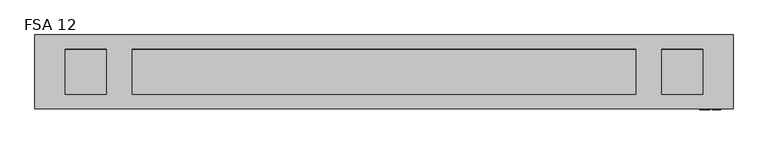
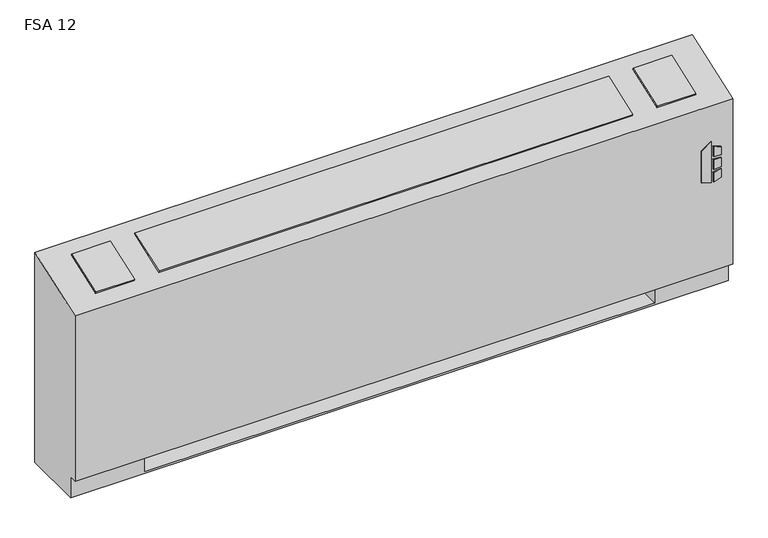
"""IFC4 building model written with IfcOpenShell, lengths in millimetres: proxy geometry, Vertical_Fan_Coil_Unit_-_FSA_-_IEC_-_4-Pipe_TS-FR_LH_2022 : FSA 12."""

from ifc_helpers import new_model, si_unit, point, frame, frame_2d, origin, place, context, project, spatial, polyline, circle_curve, trimmed, segment, composite_curve, outline, extrude, source, transform, mapped, element, save
from ifc_brep_helpers import plane_surface, revolved_surface, advanced_brep


def fsa_12_fc2f0c06(model_context):
    return source(origin(), model_context, "Body", "SolidModel", [
        extrude(outline(polyline([(391.6086829, 1128.7868862), (381.6606126, 1160.9602728), (523.831537, 1160.9602728), (500.8095309, 1128.7868862), (391.6086829, 1128.7868862)])), frame((0.0, 12.7, 0.0), z_axis=(0.0, 1.0, 0.0), x_axis=(0.0, 0.0, 1.0)), (0.0, 0.0, 1.0), 3.175),
        extrude(outline(polyline([(470.6079683, 1167.7186058), (467.4055757, 1193.8), (496.6344168, 1193.8), (504.6988318, 1167.7186058), (470.6079683, 1167.7186058)])), frame((0.0, 12.7, 0.0), z_axis=(0.0, 1.0, 0.0), x_axis=(0.0, 0.0, 1.0)), (0.0, 0.0, 1.0), 3.175),
        extrude(outline(polyline([(418.7444414, 1193.8), (415.0789404, 1167.7186058), (381.6606126, 1167.7186058), (390.2948498, 1193.8), (418.7444414, 1193.8)])), frame((0.0, 12.7, 0.0), z_axis=(0.0, 1.0, 0.0), x_axis=(0.0, 0.0, 1.0)), (0.0, 0.0, 1.0), 3.175),
        extrude(outline(polyline([(458.0596028, 1193.8), (460.3414292, 1167.7186058), (424.4038806, 1167.7186058), (427.1451456, 1193.8), (458.0596028, 1193.8)])), frame((0.0, 12.7, 0.0), z_axis=(0.0, 1.0, 0.0), x_axis=(0.0, 0.0, 1.0)), (0.0, 0.0, 1.0), 3.175),
        extrude(outline(polyline([(1111.25, 223.266), (1111.25, 81.534), (990.6, 81.534), (990.6, 223.266), (1111.25, 223.266)])), frame((0.0, 0.0, 327.025), z_axis=(0.0, 0.0, 1.0), x_axis=(1.0, 0.0, 0.0)), (0.0, 0.0, 1.0), 260.35),
        extrude(outline(composite_curve([segment(trimmed(circle_curve(frame_2d((-749.3, 130.175)), 9.525), [point((-758.825, 130.175))], [point((-739.775, 130.175))], False, "CARTESIAN"), True, "CONTINUOUS"), segment(trimmed(circle_curve(frame_2d((-749.3, 130.175)), 9.525), [point((-739.775, 130.175))], [point((-758.825, 130.175))], False, "CARTESIAN"), True, "CONTINUOUS")], self_intersect=False)), frame((0.0, 0.0, 101.6), z_axis=(0.0, 0.0, 1.0), x_axis=(1.0, 0.0, 0.0)), (0.0, 0.0, 1.0), 25.4),
        extrude(outline(polyline([(-850.9, 63.5), (-850.9, 196.85), (-685.8, 196.85), (-685.8, 63.5), (-850.9, 63.5)])), frame((0.0, 0.0, 127.0), z_axis=(0.0, 0.0, 1.0), x_axis=(1.0, 0.0, 0.0)), (0.0, 0.0, 1.0), 50.8),
        extrude(outline(polyline([(0.0, -146.0500001), (0.0, 0.0), (127.0, 0.0), (127.0, -146.0500001), (0.0, -146.0500001)])), frame((-832.993, 200.4217127, 714.3418685), z_axis=(0.0, -0.3396444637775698, 0.9405538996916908), x_axis=(1.0, 0.0, 0.0)), (0.0, 0.0, 1.0), 6.35),
        extrude(outline(polyline([(0.0, -146.0500001), (0.0, 0.0), (1555.75, 0.0), (1555.75, -146.0500001), (0.0, -146.0500001)])), frame((930.275, 63.0538156, 664.7367945), z_axis=(0.0, -0.33964446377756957, 0.9405538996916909), x_axis=(-1.0, 0.0, 0.0)), (0.0, 0.0, 1.0), 6.35),
        extrude(outline(polyline([(0.0, -146.0500001), (0.0, 0.0), (127.0, 0.0), (127.0, -146.0500001), (0.0, -146.0500001)])), frame((1137.793, 63.0538156, 664.7367945), z_axis=(0.0, -0.3396444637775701, 0.9405538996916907), x_axis=(-1.0, 0.0, 0.0)), (0.0, 0.0, 1.0), 6.35),
        extrude(outline(composite_curve([segment(trimmed(circle_curve(frame_2d((109.0168, 457.2)), 7.9375), [point((109.0168, 465.1375))], [point((109.0168, 449.2625))], False, "CARTESIAN"), True, "CONTINUOUS"), segment(trimmed(circle_curve(frame_2d((109.0168, 457.2)), 7.9375), [point((109.0168, 449.2625))], [point((109.0168, 465.1375))], False, "CARTESIAN"), True, "CONTINUOUS")], self_intersect=False)), frame((-736.6, 0.0, 0.0), z_axis=(1.0, 0.0, 0.0), x_axis=(0.0, 1.0, 0.0)), (0.0, 0.0, 1.0), 50.8),
        extrude(outline(composite_curve([segment(trimmed(circle_curve(frame_2d((172.085, 460.0194)), 7.9375), [point((172.085, 467.9569))], [point((172.085, 452.0819))], False, "CARTESIAN"), True, "CONTINUOUS"), segment(trimmed(circle_curve(frame_2d((172.085, 460.0194)), 7.9375), [point((172.085, 452.0819))], [point((172.085, 467.9569))], False, "CARTESIAN"), True, "CONTINUOUS")], self_intersect=False)), frame((-736.6, 0.0, 0.0), z_axis=(1.0, 0.0, 0.0), x_axis=(0.0, 1.0, 0.0)), (0.0, 0.0, 1.0), 50.8),
        extrude(outline(composite_curve([segment(trimmed(circle_curve(frame_2d((130.175, 554.99)), 7.9502), [point((130.175, 562.9402))], [point((130.175, 547.0398))], False, "CARTESIAN"), True, "CONTINUOUS"), segment(trimmed(circle_curve(frame_2d((130.175, 554.99)), 7.9502), [point((130.175, 547.0398))], [point((130.175, 562.9402))], False, "CARTESIAN"), True, "CONTINUOUS")], self_intersect=False)), frame((-736.6, 0.0, 0.0), z_axis=(1.0, 0.0, 0.0), x_axis=(0.0, 1.0, 0.0)), (0.0, 0.0, 1.0), 50.8),
        extrude(outline(composite_curve([segment(trimmed(circle_curve(frame_2d((53.975, 416.56)), 7.9502), [point((53.975, 424.5102))], [point((53.975, 408.6098))], False, "CARTESIAN"), True, "CONTINUOUS"), segment(trimmed(circle_curve(frame_2d((53.975, 416.56)), 7.9502), [point((53.975, 408.6098))], [point((53.975, 424.5102))], False, "CARTESIAN"), True, "CONTINUOUS")], self_intersect=False)), frame((-736.6, 0.0, 0.0), z_axis=(1.0, 0.0, 0.0), x_axis=(0.0, 1.0, 0.0)), (0.0, 0.0, 1.0), 50.8),
        advanced_brep(
        [(-927.1, 244.475, 0.0), (1231.9, 244.475, 0.0), (1231.9, 41.275, 0.0), (-927.1, 41.275, 0.0), (-927.1, 244.475, 730.25), (1231.9, 244.475, 730.25), (990.6, 244.475, 73.025), (1219.2, 244.475, 73.025), (1219.2, 244.475, 654.05), (990.6, 244.475, 654.05), (990.6, 244.475, 414.8650565), (1019.175, 244.475, 414.8650565), (1019.175, 244.475, 385.2349435), (990.6, 244.475, 385.2349435), (990.6, 244.475, 287.3375), (1019.175, 244.475, 287.3375), (1019.175, 244.475, 258.7625), (990.6, 244.475, 258.7625), (990.6, 244.475, 141.2875), (1019.175, 244.475, 141.2875), (1019.175, 244.475, 112.7125), (990.6, 244.475, 112.7125), (-685.8, 244.475, 654.05), (-914.4, 244.475, 654.05), (-914.4, 244.475, 73.025), (-685.8, 244.475, 73.025), (-685.8, 244.475, 112.7125), (-714.375, 244.475, 112.7125), (-714.375, 244.475, 141.2875), (-685.8, 244.475, 141.2875), (-685.8, 244.475, 258.7625), (-714.375, 244.475, 258.7625), (-714.375, 244.475, 287.3375), (-685.8, 244.475, 287.3375), (-685.8, 244.475, 385.2349435), (-714.375, 244.475, 385.2349435), (-714.375, 244.475, 414.8650565), (-685.8, 244.475, 414.8650565), (1008.8626, 244.475, 127.0), (997.7374, 244.475, 127.0), (1008.8626, 244.475, 400.05), (997.7374, 244.475, 400.05), (1008.8626, 244.475, 273.05), (997.7374, 244.475, 273.05), (-692.9374, 244.475, 127.0), (-704.0626, 244.475, 127.0), (-692.9374, 244.475, 273.05), (-704.0626, 244.475, 273.05), (-692.9374, 244.475, 400.05), (-704.0626, 244.475, 400.05), (-927.1, 41.275, 73.025), (-927.1, 15.875, 73.025), (-927.1, 15.875, 647.7), (1231.9, 15.875, 73.025), (1231.9, 15.875, 647.7), (1231.9, 41.275, 73.025), (-685.8, 41.275, 73.025), (-685.8, 225.425, 73.025), (990.6, 225.425, 73.025), (990.6, 41.275, 73.025), (990.6, 41.275, 6.35), (-685.8, 41.275, 6.35), (990.6, 41.275, 654.05), (1219.2, 41.275, 654.05), (1219.2, 41.275, 73.025), (990.6, 41.275, 73.025), (-685.8, 41.275, 654.05), (-685.8, 41.275, 73.025), (-914.4, 41.275, 73.025), (-914.4, 41.275, 654.05), (990.6, 225.425, 73.025), (990.6, 238.125, 112.7125), (990.6, 238.125, 141.2875), (990.6, 238.125, 258.7625), (990.6, 238.125, 287.3375), (990.6, 238.125, 385.2349435), (990.6, 238.125, 414.8650565), (-685.8, 225.425, 73.025), (-685.8, 238.125, 414.8650565), (-685.8, 238.125, 385.2349435), (-685.8, 238.125, 287.3375), (-685.8, 238.125, 258.7625), (-685.8, 238.125, 141.2875), (-685.8, 238.125, 112.7125), (-685.8, 225.425, 6.35), (990.6, 225.425, 6.35), (1019.175, 238.125, 112.7125), (1019.175, 238.125, 141.2875), (997.7374, 238.125, 127.0), (1008.8626, 238.125, 127.0), (1019.175, 238.125, 258.7625), (1019.175, 238.125, 287.3375), (997.7374, 238.125, 273.05), (1008.8626, 238.125, 273.05), (1019.175, 238.125, 385.2349435), (1019.175, 238.125, 414.8650565), (997.7374, 238.125, 400.05), (1008.8626, 238.125, 400.05), (-714.375, 238.125, 141.2875), (-714.375, 238.125, 112.7125), (-704.0626, 238.125, 127.0), (-692.9374, 238.125, 127.0), (-714.375, 238.125, 287.3375), (-714.375, 238.125, 258.7625), (-704.0626, 238.125, 273.05), (-692.9374, 238.125, 273.05), (-714.375, 238.125, 414.8650565), (-714.375, 238.125, 385.2349435), (-704.0626, 238.125, 400.05), (-692.9374, 238.125, 400.05)],
        [
            (0, 1),
            (1, 2),
            (2, 3),
            (3, 0),
            (0, 4),
            (4, 5),
            (5, 1),
            (6, 7),
            (7, 8),
            (8, 9),
            (9, 10),
            (10, 11),
            (11, 12),
            (12, 13),
            (13, 14),
            (14, 15),
            (15, 16),
            (16, 17),
            (17, 18),
            (18, 19),
            (19, 20),
            (20, 21),
            (21, 6),
            (22, 23),
            (23, 24),
            (24, 25),
            (25, 26),
            (26, 27),
            (27, 28),
            (28, 29),
            (29, 30),
            (30, 31),
            (31, 32),
            (32, 33),
            (33, 34),
            (34, 35),
            (35, 36),
            (36, 37),
            (37, 22),
            (38, 39, circle_curve(frame((1003.3, 244.475, 127.0), z_axis=(0.0, -1.0, 0.0), x_axis=(-1.0, 0.0, 0.0)), 5.5626)),
            (39, 38, circle_curve(frame((1003.3, 244.475, 127.0), z_axis=(0.0, -1.0, 0.0), x_axis=(-1.0, 0.0, 0.0)), 5.5626)),
            (40, 41, circle_curve(frame((1003.3, 244.475, 400.05), z_axis=(0.0, -1.0, 0.0), x_axis=(-1.0, 0.0, 0.0)), 5.5626)),
            (41, 40, circle_curve(frame((1003.3, 244.475, 400.05), z_axis=(0.0, -1.0, 0.0), x_axis=(-1.0, 0.0, 0.0)), 5.5626)),
            (42, 43, circle_curve(frame((1003.3, 244.475, 273.05), z_axis=(0.0, -1.0, 0.0), x_axis=(-1.0, 0.0, 0.0)), 5.5626)),
            (43, 42, circle_curve(frame((1003.3, 244.475, 273.05), z_axis=(0.0, -1.0, 0.0), x_axis=(-1.0, 0.0, 0.0)), 5.5626)),
            (44, 45, circle_curve(frame((-698.5, 244.475, 127.0), z_axis=(0.0, -1.0, 0.0), x_axis=(-1.0, 0.0, 0.0)), 5.5626)),
            (45, 44, circle_curve(frame((-698.5, 244.475, 127.0), z_axis=(0.0, -1.0, 0.0), x_axis=(-1.0, 0.0, 0.0)), 5.5626)),
            (46, 47, circle_curve(frame((-698.5, 244.475, 273.05), z_axis=(0.0, -1.0, 0.0), x_axis=(-1.0, 0.0, 0.0)), 5.5626)),
            (47, 46, circle_curve(frame((-698.5, 244.475, 273.05), z_axis=(0.0, -1.0, 0.0), x_axis=(-1.0, 0.0, 0.0)), 5.5626)),
            (48, 49, circle_curve(frame((-698.5, 244.475, 400.05), z_axis=(0.0, -1.0, 0.0), x_axis=(-1.0, 0.0, 0.0)), 5.5626)),
            (49, 48, circle_curve(frame((-698.5, 244.475, 400.05), z_axis=(0.0, -1.0, 0.0), x_axis=(-1.0, 0.0, 0.0)), 5.5626)),
            (3, 50),
            (50, 51),
            (51, 52),
            (52, 4),
            (51, 53),
            (53, 54),
            (54, 52),
            (5, 54),
            (53, 55),
            (55, 2),
            (50, 56),
            (56, 57),
            (57, 58),
            (58, 59),
            (59, 55),
            (59, 60),
            (60, 61),
            (61, 56),
            (62, 63),
            (63, 64),
            (64, 65),
            (65, 62),
            (66, 67),
            (67, 68),
            (68, 69),
            (69, 66),
            (65, 70),
            (70, 6),
            (21, 71),
            (71, 72),
            (72, 18),
            (17, 73),
            (73, 74),
            (74, 14),
            (13, 75),
            (75, 76),
            (76, 10),
            (9, 62),
            (64, 7),
            (63, 8),
            (69, 23),
            (22, 66),
            (68, 24),
            (67, 77),
            (77, 25),
            (37, 78),
            (78, 79),
            (79, 34),
            (33, 80),
            (80, 81),
            (81, 30),
            (29, 82),
            (82, 83),
            (83, 26),
            (57, 84),
            (84, 85),
            (85, 58),
            (85, 60),
            (84, 61),
            (71, 86),
            (86, 87),
            (87, 72),
            (88, 89, circle_curve(frame((1003.3, 238.125, 127.0), z_axis=(0.0, 1.0, 0.0), x_axis=(-1.0, 0.0, 0.0)), 5.5626)),
            (89, 88, circle_curve(frame((1003.3, 238.125, 127.0), z_axis=(0.0, 1.0, 0.0), x_axis=(-1.0, 0.0, 0.0)), 5.5626)),
            (73, 90),
            (90, 91),
            (91, 74),
            (92, 93, circle_curve(frame((1003.3, 238.125, 273.05), z_axis=(0.0, 1.0, 0.0), x_axis=(-1.0, 0.0, 0.0)), 5.5626)),
            (93, 92, circle_curve(frame((1003.3, 238.125, 273.05), z_axis=(0.0, 1.0, 0.0), x_axis=(-1.0, 0.0, 0.0)), 5.5626)),
            (75, 94),
            (94, 95),
            (95, 76),
            (96, 97, circle_curve(frame((1003.3, 238.125, 400.05), z_axis=(0.0, 1.0, 0.0), x_axis=(-1.0, 0.0, 0.0)), 5.5626)),
            (97, 96, circle_curve(frame((1003.3, 238.125, 400.05), z_axis=(0.0, 1.0, 0.0), x_axis=(-1.0, 0.0, 0.0)), 5.5626)),
            (98, 99),
            (99, 83),
            (82, 98),
            (100, 101, circle_curve(frame((-698.5, 238.125, 127.0), z_axis=(0.0, 1.0, 0.0), x_axis=(-1.0, 0.0, 0.0)), 5.5626)),
            (101, 100, circle_curve(frame((-698.5, 238.125, 127.0), z_axis=(0.0, 1.0, 0.0), x_axis=(-1.0, 0.0, 0.0)), 5.5626)),
            (102, 103),
            (103, 81),
            (80, 102),
            (104, 105, circle_curve(frame((-698.5, 238.125, 273.05), z_axis=(0.0, 1.0, 0.0), x_axis=(-1.0, 0.0, 0.0)), 5.5626)),
            (105, 104, circle_curve(frame((-698.5, 238.125, 273.05), z_axis=(0.0, 1.0, 0.0), x_axis=(-1.0, 0.0, 0.0)), 5.5626)),
            (106, 107),
            (107, 79),
            (78, 106),
            (108, 109, circle_curve(frame((-698.5, 238.125, 400.05), z_axis=(0.0, 1.0, 0.0), x_axis=(-1.0, 0.0, 0.0)), 5.5626)),
            (109, 108, circle_curve(frame((-698.5, 238.125, 400.05), z_axis=(0.0, 1.0, 0.0), x_axis=(-1.0, 0.0, 0.0)), 5.5626)),
            (87, 19),
            (86, 20),
            (91, 15),
            (90, 16),
            (95, 11),
            (94, 12),
            (28, 98),
            (99, 27),
            (32, 102),
            (103, 31),
            (36, 106),
            (107, 35),
            (88, 39),
            (38, 89),
            (96, 41),
            (40, 97),
            (92, 43),
            (42, 93),
            (100, 45),
            (44, 101),
            (104, 47),
            (46, 105),
            (108, 49),
            (48, 109),
        ],
        [
            plane_surface(frame((-927.1, 244.475, 0.0), z_axis=(0.0, 0.0, -1.0), x_axis=(1.0, 0.0, 0.0))),
            plane_surface(frame((1231.9, 244.475, 730.25), z_axis=(0.0, 1.0, 0.0), x_axis=(0.0, 0.0, -1.0))),
            plane_surface(frame((-927.1, 244.475, 730.25), z_axis=(-1.0, 0.0, 0.0), x_axis=(0.0, 0.0, -1.0))),
            plane_surface(frame((-927.1, 15.875, 730.25), z_axis=(0.0, -1.0, 0.0), x_axis=(0.0, 0.0, -1.0))),
            plane_surface(frame((1231.9, 15.875, 730.25), z_axis=(1.0, 0.0, 0.0), x_axis=(0.0, 0.0, -1.0))),
            plane_surface(frame((-927.1, 15.875, 73.025), z_axis=(0.0, 0.0, -1.0), x_axis=(1.0, 0.0, 0.0))),
            plane_surface(frame((-927.1, 41.275, 73.025), z_axis=(0.0, -1.0, 0.0), x_axis=(1.0, 0.0, 0.0))),
            plane_surface(frame((990.6, 41.275, 654.05), z_axis=(0.0, 1.0, 0.0), x_axis=(0.0, 0.0, -1.0))),
            plane_surface(frame((990.6, 41.275, 654.05), z_axis=(1.0, 0.0, 0.0), x_axis=(0.0, 1.0, 0.0))),
            plane_surface(frame((990.6, 41.275, 73.025), z_axis=(0.0, 0.0, 1.0), x_axis=(0.0, 1.0, 0.0))),
            plane_surface(frame((1219.2, 41.275, 73.025), z_axis=(-1.0, 0.0, 0.0), x_axis=(0.0, 1.0, 0.0))),
            plane_surface(frame((1219.2, 41.275, 654.05), z_axis=(0.0, 0.0, -1.0), x_axis=(0.0, 1.0, 0.0))),
            plane_surface(frame((-685.8, 41.275, 654.05), z_axis=(0.0, 0.0, -1.0), x_axis=(0.0, 1.0, 0.0))),
            plane_surface(frame((-914.4, 41.275, 654.05), z_axis=(1.0, 0.0, 0.0), x_axis=(0.0, 1.0, 0.0))),
            plane_surface(frame((-914.4, 41.275, 73.025), z_axis=(0.0, 0.0, 1.0), x_axis=(0.0, 1.0, 0.0))),
            plane_surface(frame((-685.8, 41.275, 73.025), z_axis=(-1.0, 0.0, 0.0), x_axis=(0.0, 1.0, 0.0))),
            plane_surface(frame((990.6, 225.425, 73.025), z_axis=(0.0, -1.0, 0.0), x_axis=(0.0, 0.0, -1.0))),
            plane_surface(frame((990.6, 225.425, 73.025), z_axis=(-1.0, 0.0, 0.0), x_axis=(0.0, -1.0, 0.0))),
            plane_surface(frame((990.6, 225.425, 6.35), z_axis=(0.0, 0.0, 1.0), x_axis=(0.0, -1.0, 0.0))),
            plane_surface(frame((-685.8, 225.425, 6.35), z_axis=(1.0, 0.0, 0.0), x_axis=(0.0, -1.0, 0.0))),
            plane_surface(frame((1019.175, 238.125, 141.2875), z_axis=(0.0, -1.0, 0.0), x_axis=(-1.0, 0.0, 0.0))),
            plane_surface(frame((990.6, 244.475, 141.2875), z_axis=(0.0, 0.0, 1.0), x_axis=(0.0, -1.0, 0.0))),
            plane_surface(frame((1019.175, 244.475, 141.2875), z_axis=(1.0, 0.0, 0.0), x_axis=(0.0, -1.0, 0.0))),
            plane_surface(frame((1019.175, 244.475, 112.7125), z_axis=(0.0, 0.0, -1.0), x_axis=(0.0, -1.0, 0.0))),
            plane_surface(frame((990.6, 244.475, 287.3375), z_axis=(0.0, 0.0, 1.0), x_axis=(0.0, -1.0, 0.0))),
            plane_surface(frame((1019.175, 244.475, 287.3375), z_axis=(1.0, 0.0, 0.0), x_axis=(0.0, -1.0, 0.0))),
            plane_surface(frame((1019.175, 244.475, 258.7625), z_axis=(0.0, 0.0, -1.0), x_axis=(0.0, -1.0, 0.0))),
            plane_surface(frame((990.6, 244.475, 414.8650565), z_axis=(0.0, 0.0, 1.0), x_axis=(0.0, -1.0, 0.0))),
            plane_surface(frame((1019.175, 244.475, 414.8650565), z_axis=(1.0, 0.0, 0.0), x_axis=(0.0, -1.0, 0.0))),
            plane_surface(frame((1019.175, 244.475, 385.2349435), z_axis=(0.0, 0.0, -1.0), x_axis=(0.0, -1.0, 0.0))),
            plane_surface(frame((-714.375, 244.475, 141.2875), z_axis=(0.0, 0.0, 1.0), x_axis=(0.0, -1.0, 0.0))),
            plane_surface(frame((-685.8, 244.475, 112.7125), z_axis=(0.0, 0.0, -1.0), x_axis=(0.0, -1.0, 0.0))),
            plane_surface(frame((-714.375, 244.475, 112.7125), z_axis=(-1.0, 0.0, 0.0), x_axis=(0.0, -1.0, 0.0))),
            plane_surface(frame((-714.375, 244.475, 287.3375), z_axis=(0.0, 0.0, 1.0), x_axis=(0.0, -1.0, 0.0))),
            plane_surface(frame((-685.8, 244.475, 258.7625), z_axis=(0.0, 0.0, -1.0), x_axis=(0.0, -1.0, 0.0))),
            plane_surface(frame((-714.375, 244.475, 258.7625), z_axis=(-1.0, 0.0, 0.0), x_axis=(0.0, -1.0, 0.0))),
            plane_surface(frame((-714.375, 244.475, 414.8650565), z_axis=(0.0, 0.0, 1.0), x_axis=(0.0, -1.0, 0.0))),
            plane_surface(frame((-685.8, 244.475, 385.2349435), z_axis=(0.0, 0.0, -1.0), x_axis=(0.0, -1.0, 0.0))),
            plane_surface(frame((-714.375, 244.475, 385.2349435), z_axis=(-1.0, 0.0, 0.0), x_axis=(0.0, -1.0, 0.0))),
            revolved_surface(polyline([(997.7374, 238.125, 127.0), (997.7374, 244.475, 127.0)]), (1003.3, 244.475, 127.0), (0.0, -1.0, 0.0)),
            revolved_surface(polyline([(997.7374, 238.125, 400.05), (997.7374, 244.475, 400.05)]), (1003.3, 244.475, 400.05), (0.0, -1.0, 0.0)),
            revolved_surface(polyline([(997.7374, 238.125, 273.05), (997.7374, 244.475, 273.05)]), (1003.3, 244.475, 273.05), (0.0, -1.0, 0.0)),
            revolved_surface(polyline([(-704.0626, 238.125, 127.0), (-704.0626, 244.475, 127.0)]), (-698.5, 244.475, 127.0), (0.0, -1.0, 0.0)),
            revolved_surface(polyline([(-704.0626, 238.125, 273.05), (-704.0626, 244.475, 273.05)]), (-698.5, 244.475, 273.05), (0.0, -1.0, 0.0)),
            revolved_surface(polyline([(-704.0626, 238.125, 400.05), (-704.0626, 244.475, 400.05)]), (-698.5, 244.475, 400.05), (0.0, -1.0, 0.0)),
            plane_surface(frame((-927.1, 244.475, 730.25), z_axis=(0.0, -0.33964446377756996, 0.9405538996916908), x_axis=(1.0, 0.0, 0.0))),
        ],
        [
            (0, [[1, 2, 3, 4]]),
            (1, [[-1, 5, 6, 7], [8, 9, 10, 11, 12, 13, 14, 15, 16, 17, 18, 19, 20, 21, 22, 23], [24, 25, 26, 27, 28, 29, 30, 31, 32, 33, 34, 35, 36, 37, 38, 39], [40, 41], [42, 43], [44, 45], [46, 47], [48, 49], [50, 51]]),
            (2, [[-5, -4, 52, 53, 54, 55]]),
            (3, [[56, 57, 58, -54]]),
            (4, [[-7, 59, -57, 60, 61, -2]]),
            (5, [[-53, 62, 63, 64, 65, 66, -60, -56]]),
            (6, [[-3, -61, -66, 67, 68, 69, -62, -52]]),
            (7, [[70, 71, 72, 73]]),
            (7, [[74, 75, 76, 77]]),
            (8, [[-73, 78, 79, -23, 80, 81, 82, -19, 83, 84, 85, -15, 86, 87, 88, -11, 89]]),
            (9, [[-72, 90, -8, -79, -78]]),
            (10, [[-71, 91, -9, -90]]),
            (11, [[-70, -89, -10, -91]]),
            (12, [[-77, 92, -24, 93]]),
            (13, [[-76, 94, -25, -92]]),
            (14, [[-75, 95, 96, -26, -94]]),
            (15, [[-74, -93, -39, 97, 98, 99, -35, 100, 101, 102, -31, 103, 104, 105, -27, -96, -95]]),
            (16, [[-64, 106, 107, 108]]),
            (17, [[-108, 109, -67, -65]]),
            (18, [[-107, 110, -68, -109]]),
            (19, [[-106, -63, -69, -110]]),
            (20, [[111, 112, 113, -81], [114, 115]]),
            (20, [[116, 117, 118, -84], [119, 120]]),
            (20, [[121, 122, 123, -87], [124, 125]]),
            (20, [[126, 127, -104, 128], [129, 130]]),
            (20, [[131, 132, -101, 133], [134, 135]]),
            (20, [[136, 137, -98, 138], [139, 140]]),
            (21, [[-113, 141, -20, -82]]),
            (22, [[-112, 142, -21, -141]]),
            (23, [[-111, -80, -22, -142]]),
            (24, [[-118, 143, -16, -85]]),
            (25, [[-117, 144, -17, -143]]),
            (26, [[-116, -83, -18, -144]]),
            (27, [[-123, 145, -12, -88]]),
            (28, [[-122, 146, -13, -145]]),
            (29, [[-121, -86, -14, -146]]),
            (30, [[-128, -103, -30, 147]]),
            (31, [[-127, 148, -28, -105]]),
            (32, [[-126, -147, -29, -148]]),
            (33, [[-133, -100, -34, 149]]),
            (34, [[-132, 150, -32, -102]]),
            (35, [[-131, -149, -33, -150]]),
            (36, [[-138, -97, -38, 151]]),
            (37, [[-137, 152, -36, -99]]),
            (38, [[-136, -151, -37, -152]]),
            (39, [[153, -40, 154, -114]]),
            (39, [[-153, -115, -154, -41]]),
            (40, [[155, -42, 156, -124]]),
            (40, [[-155, -125, -156, -43]]),
            (41, [[157, -44, 158, -119]]),
            (41, [[-157, -120, -158, -45]]),
            (42, [[159, -46, 160, -129]]),
            (42, [[-159, -130, -160, -47]]),
            (43, [[161, -48, 162, -134]]),
            (43, [[-161, -135, -162, -49]]),
            (44, [[163, -50, 164, -139]]),
            (44, [[-163, -140, -164, -51]]),
            (45, [[-6, -55, -58, -59]]),
        ],
    ),
    ])


if __name__ == "__main__":
    model = new_model("IFC4")
    model_context = context("Model", 3, world=origin())
    ifc_project = project(units=[si_unit("LENGTHUNIT", "METRE", prefix="MILLI")], contexts=[model_context])
    site = spatial("IfcSite", under=ifc_project)
    building = spatial("IfcBuilding", under=site)
    placement = place(None, origin())
    fsa_12_shape = fsa_12_fc2f0c06(model_context)
    element("IfcBuildingElementProxy", 1, Name="Vertical_Fan_Coil_Unit_-_FSA_-_IEC_-_4-Pipe_TS-FR_LH_2022 : FSA 12", ObjectType="Vertical_Fan_Coil_Unit_-_FSA_-_IEC_-_4-Pipe_TS-FR_LH_2022 : FSA 12", at=placement, inside=building, context=model_context, shape_type="MappedRepresentation", body=[
        mapped(fsa_12_shape, transform((0.0, 0.0, 0.0), x_axis=(1.0, 0.0, 0.0), y_axis=(0.0, 1.0, 0.0), z_axis=(0.0, 0.0, 1.0))),
    ])
    save(model, "model.ifc")
